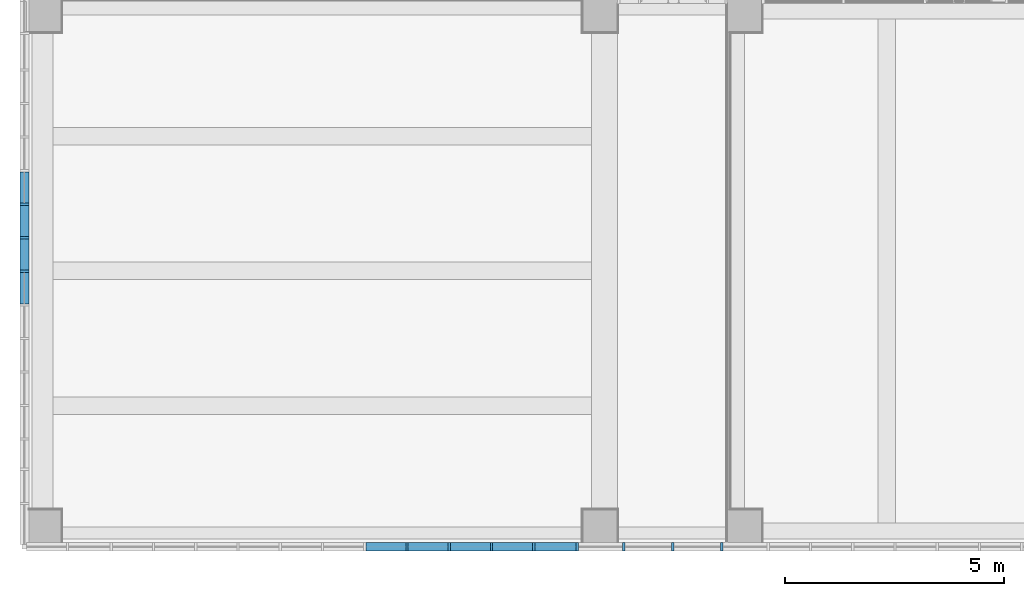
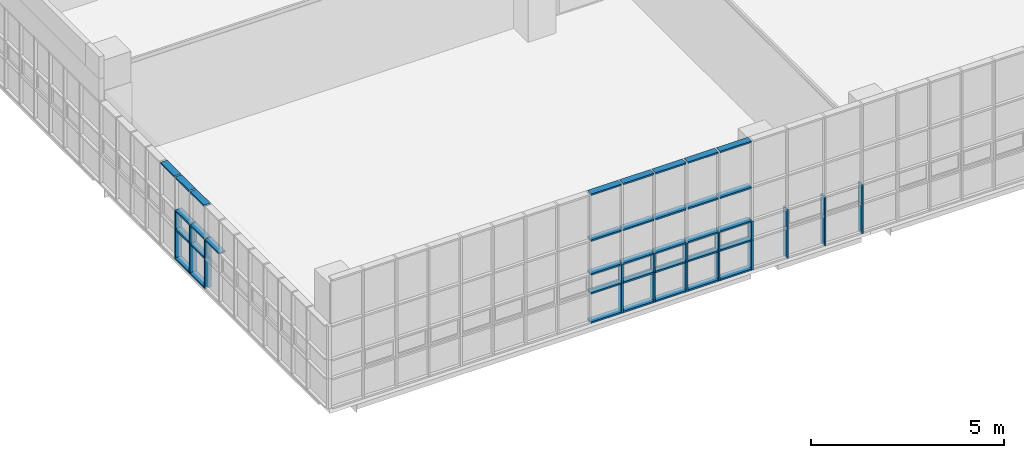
# One storey, part 13 of 76: 57 members, 2 elements without a shape of their own.
"""IFC2X3 building model written with IfcOpenShell, lengths in millimetres."""

from ifc_helpers import new_model, entity, si_unit, converted_unit, derived_unit, direction, frame, origin, origin_2d_with_axis, place, context, subcontext, project, spatial, rectangle, extrude, source, transform, mapped, material, type_object, type_shapes, element, aggregate, save


model = new_model("IFC2X3")

# Units and contexts
model_context = context("Model", 3, precision=0.01, world=origin(), true_north=direction((6.123031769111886e-17, 1.0)))
body_context = subcontext(model_context, "Body", "Model", "MODEL_VIEW")
ifc_project = project(units=[si_unit("LENGTHUNIT", "METRE", prefix="MILLI"), si_unit("AREAUNIT", "SQUARE_METRE"), si_unit("VOLUMEUNIT", "CUBIC_METRE"), converted_unit("PLANEANGLEUNIT", "DEGREE", entity("IfcRatioMeasure", 0.017453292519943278), si_unit("PLANEANGLEUNIT", "RADIAN"), dimensions=[0, 0, 0, 0, 0, 0, 0]), si_unit("MASSUNIT", "GRAM", prefix="KILO"), derived_unit("MASSDENSITYUNIT", [(si_unit("MASSUNIT", "GRAM", prefix="KILO"), 1), (si_unit("LENGTHUNIT", "METRE"), -3)]), derived_unit("MOMENTOFINERTIAUNIT", [(si_unit("LENGTHUNIT", "METRE"), 4)]), si_unit("TIMEUNIT", "SECOND"), si_unit("FREQUENCYUNIT", "HERTZ"), si_unit("THERMODYNAMICTEMPERATUREUNIT", "DEGREE_CELSIUS"), derived_unit("THERMALTRANSMITTANCEUNIT", [(si_unit("MASSUNIT", "GRAM", prefix="KILO"), 1), (si_unit("THERMODYNAMICTEMPERATUREUNIT", "KELVIN"), -1), (si_unit("TIMEUNIT", "SECOND"), -3)]), derived_unit("VOLUMETRICFLOWRATEUNIT", [(si_unit("LENGTHUNIT", "METRE"), 3), (si_unit("TIMEUNIT", "SECOND"), -1)]), derived_unit("MASSFLOWRATEUNIT", [(si_unit("MASSUNIT", "GRAM", prefix="KILO"), 1), (si_unit("TIMEUNIT", "SECOND"), -1)]), derived_unit("ROTATIONALFREQUENCYUNIT", [(si_unit("TIMEUNIT", "SECOND"), -1)]), si_unit("ELECTRICCURRENTUNIT", "AMPERE"), si_unit("ELECTRICVOLTAGEUNIT", "VOLT"), si_unit("POWERUNIT", "WATT"), si_unit("FORCEUNIT", "NEWTON", prefix="KILO"), si_unit("ILLUMINANCEUNIT", "LUX"), si_unit("LUMINOUSFLUXUNIT", "LUMEN"), si_unit("LUMINOUSINTENSITYUNIT", "CANDELA"), derived_unit("USERDEFINED", [(si_unit("MASSUNIT", "GRAM", prefix="KILO"), -1), (si_unit("LENGTHUNIT", "METRE"), -2), (si_unit("TIMEUNIT", "SECOND"), 3), (si_unit("LUMINOUSFLUXUNIT", "LUMEN"), 1)]), derived_unit("SOUNDPOWERUNIT", [(si_unit("MASSUNIT", "GRAM", prefix="KILO"), 1), (si_unit("LENGTHUNIT", "METRE"), 2), (si_unit("TIMEUNIT", "SECOND"), -3)]), derived_unit("SOUNDPRESSUREUNIT", [(si_unit("MASSUNIT", "GRAM", prefix="KILO"), 1), (si_unit("LENGTHUNIT", "METRE"), -1), (si_unit("TIMEUNIT", "SECOND"), -2)]), derived_unit("LINEARVELOCITYUNIT", [(si_unit("LENGTHUNIT", "METRE"), 1), (si_unit("TIMEUNIT", "SECOND"), -1)]), si_unit("PRESSUREUNIT", "PASCAL"), derived_unit("USERDEFINED", [(si_unit("LENGTHUNIT", "METRE"), -2), (si_unit("MASSUNIT", "GRAM", prefix="KILO"), 1), (si_unit("TIMEUNIT", "SECOND"), -2)]), derived_unit("LINEARFORCEUNIT", [(si_unit("MASSUNIT", "GRAM", prefix="KILO"), 1), (si_unit("LENGTHUNIT", "METRE"), 1), (si_unit("TIMEUNIT", "SECOND"), -2), (si_unit("LENGTHUNIT", "METRE"), -1)]), derived_unit("PLANARFORCEUNIT", [(si_unit("MASSUNIT", "GRAM", prefix="KILO"), 1), (si_unit("LENGTHUNIT", "METRE"), 1), (si_unit("TIMEUNIT", "SECOND"), -2), (si_unit("LENGTHUNIT", "METRE"), -2)])], contexts=[model_context])

# Site, building, storey
site_placement = place(None, frame((-14167.972527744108, -657.2125860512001, 0.0)))
site = spatial("IfcSite", under=ifc_project, at=site_placement, Name="Default", CompositionType="ELEMENT")
building_placement = place(site_placement, origin())
building = spatial("IfcBuilding", under=site, at=building_placement, Name="Sample Building", CompositionType="ELEMENT")
storey_placement = place(building_placement, frame((0.0, 0.0, 9300.0)))
storey = spatial("IfcBuildingStorey", under=building, at=storey_placement, Name="지상 3층", CompositionType="ELEMENT", Elevation=9300.000000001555)

# Curtain wall, members
curtain_wall_type = type_object("IfcCurtainWallType", Name="커튼월:CW112-스테인리스 스틸 커튼월", PredefinedType="NOTDEFINED")
curtain_wall_1_placement = place(storey_placement, frame((0.0, 0.0, -9300.0)))
curtain_wall_1 = element("IfcCurtainWall", 1, at=curtain_wall_1_placement, inside=storey, type_object=curtain_wall_type, Name="커튼월:CW112-스테인리스 스틸 커튼월", ObjectType="커튼월:CW112-스테인리스 스틸 커튼월")
ifc_material = material(Name="<Unnamed>")
member_type_1 = type_object("IfcMemberType", Name="직사각형 멀리언:CW200-직사각형 멀리언 50x200mm", PredefinedType="MULLION", material=ifc_material)
shared_shape_1 = source(origin(), body_context, "Body", "SweptSolid", [
    extrude(rectangle(XDim=200.0, YDim=50.0, at=origin_2d_with_axis()), frame((0.0, 0.0, -600.0), z_axis=(0.0, 0.0, 1.0), x_axis=(0.0, -1.0, 0.0)), (0.0, 0.0, 1.0), 600.0),
])
type_shapes(member_type_1, [shared_shape_1])
member_1_placement = place(curtain_wall_1_placement, frame((14018.587904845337, 6799.817707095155, 10330.0), z_axis=(0.0, 0.0, -1.0), x_axis=(0.0, -1.0, 0.0)))
member_1 = element("IfcMember", 2, at=member_1_placement, type_object=member_type_1, material=ifc_material, Name="직사각형 멀리언:CW200-직사각형 멀리언 50x200mm", ObjectType="직사각형 멀리언:CW200-직사각형 멀리언 50x200mm", context=body_context, shape_type="MappedRepresentation", body=[
    mapped(shared_shape_1, transform((0.0, 0.0, 0.0), scale=1.0)),
])
member_2_placement = place(curtain_wall_1_placement, frame((14018.587904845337, 7565.817707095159, 10330.0), z_axis=(0.0, 0.0, -1.0), x_axis=(0.0, -1.0, 0.0)))
member_2 = element("IfcMember", 3, at=member_2_placement, type_object=member_type_1, material=ifc_material, Name="직사각형 멀리언:CW200-직사각형 멀리언 50x200mm", ObjectType="직사각형 멀리언:CW200-직사각형 멀리언 50x200mm", context=body_context, shape_type="MappedRepresentation", body=[
    mapped(shared_shape_1, transform((0.0, 0.0, 0.0), scale=1.0)),
])
member_3_placement = place(curtain_wall_1_placement, frame((14018.587904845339, 8331.817707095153, 10330.0), z_axis=(0.0, 0.0, -1.0), x_axis=(0.0, -1.0, 0.0)))
member_3 = element("IfcMember", 4, at=member_3_placement, type_object=member_type_1, material=ifc_material, Name="직사각형 멀리언:CW200-직사각형 멀리언 50x200mm", ObjectType="직사각형 멀리언:CW200-직사각형 멀리언 50x200mm", context=body_context, shape_type="MappedRepresentation", body=[
    mapped(shared_shape_1, transform((0.0, 0.0, 0.0), scale=1.0)),
])

curtain_wall_2_placement = place(storey_placement, frame((0.0, 0.0, -9300.0)))
curtain_wall_2 = element("IfcCurtainWall", 5, at=curtain_wall_2_placement, inside=storey, type_object=curtain_wall_type, Name="커튼월:CW112-스테인리스 스틸 커튼월", ObjectType="커튼월:CW112-스테인리스 스틸 커튼월")
member_4_placement = place(curtain_wall_2_placement, frame((22755.156070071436, 507.2122951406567, 10330.0), z_axis=(0.0, 0.0, -1.0), x_axis=(1.0, 0.0, 0.0)))
member_4 = element("IfcMember", 6, at=member_4_placement, type_object=member_type_1, material=ifc_material, Name="직사각형 멀리언:CW200-직사각형 멀리언 50x200mm", ObjectType="직사각형 멀리언:CW200-직사각형 멀리언 50x200mm", context=body_context, shape_type="MappedRepresentation", body=[
    mapped(shared_shape_1, transform((0.0, 0.0, 0.0), scale=1.0)),
])
member_5_placement = place(curtain_wall_2_placement, frame((23720.156070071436, 507.21229514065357, 10330.0), z_axis=(0.0, 0.0, -1.0), x_axis=(1.0, 0.0, 0.0)))
member_5 = element("IfcMember", 7, at=member_5_placement, type_object=member_type_1, material=ifc_material, Name="직사각형 멀리언:CW200-직사각형 멀리언 50x200mm", ObjectType="직사각형 멀리언:CW200-직사각형 멀리언 50x200mm", context=body_context, shape_type="MappedRepresentation", body=[
    mapped(shared_shape_1, transform((0.0, 0.0, 0.0), scale=1.0)),
])
member_6_placement = place(curtain_wall_2_placement, frame((24685.15607007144, 507.2122951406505, 10330.0), z_axis=(0.0, 0.0, -1.0), x_axis=(1.0, 0.0, 0.0)))
member_6 = element("IfcMember", 8, at=member_6_placement, type_object=member_type_1, material=ifc_material, Name="직사각형 멀리언:CW200-직사각형 멀리언 50x200mm", ObjectType="직사각형 멀리언:CW200-직사각형 멀리언 50x200mm", context=body_context, shape_type="MappedRepresentation", body=[
    mapped(shared_shape_1, transform((0.0, 0.0, 0.0), scale=1.0)),
])
member_7_placement = place(curtain_wall_2_placement, frame((25650.156070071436, 507.21229514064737, 10330.0), z_axis=(0.0, 0.0, -1.0), x_axis=(1.0, 0.0, 0.0)))
member_7 = element("IfcMember", 9, at=member_7_placement, type_object=member_type_1, material=ifc_material, Name="직사각형 멀리언:CW200-직사각형 멀리언 50x200mm", ObjectType="직사각형 멀리언:CW200-직사각형 멀리언 50x200mm", context=body_context, shape_type="MappedRepresentation", body=[
    mapped(shared_shape_1, transform((0.0, 0.0, 0.0), scale=1.0)),
])
member_8_placement = place(curtain_wall_2_placement, frame((26645.156070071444, 507.2122951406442, 10330.0), z_axis=(0.0, 0.0, -1.0), x_axis=(1.0, 0.0, 0.0)))
member_8 = element("IfcMember", 10, at=member_8_placement, type_object=member_type_1, material=ifc_material, Name="직사각형 멀리언:CW200-직사각형 멀리언 50x200mm", ObjectType="직사각형 멀리언:CW200-직사각형 멀리언 50x200mm", context=body_context, shape_type="MappedRepresentation", body=[
    mapped(shared_shape_1, transform((0.0, 0.0, 0.0), scale=1.0)),
])
member_9_placement = place(curtain_wall_2_placement, frame((27705.15607007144, 507.2122951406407, 10330.0), z_axis=(0.0, 0.0, -1.0), x_axis=(1.0, 0.0, 0.0)))
member_9 = element("IfcMember", 11, at=member_9_placement, type_object=member_type_1, material=ifc_material, Name="직사각형 멀리언:CW200-직사각형 멀리언 50x200mm", ObjectType="직사각형 멀리언:CW200-직사각형 멀리언 50x200mm", context=body_context, shape_type="MappedRepresentation", body=[
    mapped(shared_shape_1, transform((0.0, 0.0, 0.0), scale=1.0)),
])
member_10_placement = place(curtain_wall_2_placement, frame((28825.156070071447, 507.21229514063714, 10330.0), z_axis=(0.0, 0.0, -1.0), x_axis=(1.0, 0.0, 0.0)))
member_10 = element("IfcMember", 12, at=member_10_placement, type_object=member_type_1, material=ifc_material, Name="직사각형 멀리언:CW200-직사각형 멀리언 50x200mm", ObjectType="직사각형 멀리언:CW200-직사각형 멀리언 50x200mm", context=body_context, shape_type="MappedRepresentation", body=[
    mapped(shared_shape_1, transform((0.0, 0.0, 0.0), scale=1.0)),
])
member_11_placement = place(curtain_wall_2_placement, frame((29945.15607007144, 507.2122951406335, 10330.0), z_axis=(0.0, 0.0, -1.0), x_axis=(1.0, 0.0, 0.0)))
member_11 = element("IfcMember", 13, at=member_11_placement, type_object=member_type_1, material=ifc_material, Name="직사각형 멀리언:CW200-직사각형 멀리언 50x200mm", ObjectType="직사각형 멀리언:CW200-직사각형 멀리언 50x200mm", context=body_context, shape_type="MappedRepresentation", body=[
    mapped(shared_shape_1, transform((0.0, 0.0, 0.0), scale=1.0)),
])

# Member
member_type_2 = type_object("IfcMemberType", Name="직사각형 멀리언:CW200-직사각형 멀리언 50x200mm", PredefinedType="MULLION", material=ifc_material)
shared_shape_2 = source(origin(), body_context, "Body", "SweptSolid", [
    extrude(rectangle(XDim=200.0, YDim=50.0, at=origin_2d_with_axis()), frame((0.0, 0.0, -950.0), z_axis=(0.0, 0.0, 1.0), x_axis=(0.0, -1.0, 0.0)), (0.0, 0.0, 1.0), 949.9999999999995),
])
type_shapes(member_type_2, [shared_shape_2])
member_12_placement = place(curtain_wall_1_placement, frame((14018.587904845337, 6799.817707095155, 9380.0), z_axis=(0.0, 0.0, -1.0), x_axis=(0.0, -1.0, 0.0)))
member_12 = element("IfcMember", 14, at=member_12_placement, type_object=member_type_2, material=ifc_material, Name="직사각형 멀리언:CW200-직사각형 멀리언 50x200mm", ObjectType="직사각형 멀리언:CW200-직사각형 멀리언 50x200mm", context=body_context, shape_type="MappedRepresentation", body=[
    mapped(shared_shape_2, transform((0.0, 0.0, 0.0), scale=1.0)),
])

member_13_placement = place(curtain_wall_1_placement, frame((14018.587904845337, 7565.817707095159, 9380.0), z_axis=(0.0, 0.0, -1.0), x_axis=(0.0, -1.0, 0.0)))
member_13 = element("IfcMember", 15, at=member_13_placement, type_object=member_type_2, material=ifc_material, Name="직사각형 멀리언:CW200-직사각형 멀리언 50x200mm", ObjectType="직사각형 멀리언:CW200-직사각형 멀리언 50x200mm", context=body_context, shape_type="MappedRepresentation", body=[
    mapped(shared_shape_2, transform((0.0, 0.0, 0.0), scale=1.0)),
])

member_14_placement = place(curtain_wall_1_placement, frame((14018.587904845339, 8331.817707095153, 9380.0), z_axis=(0.0, 0.0, -1.0), x_axis=(0.0, -1.0, 0.0)))
member_14 = element("IfcMember", 16, at=member_14_placement, type_object=member_type_2, material=ifc_material, Name="직사각형 멀리언:CW200-직사각형 멀리언 50x200mm", ObjectType="직사각형 멀리언:CW200-직사각형 멀리언 50x200mm", context=body_context, shape_type="MappedRepresentation", body=[
    mapped(shared_shape_2, transform((0.0, 0.0, 0.0), scale=1.0)),
])

member_15_placement = place(curtain_wall_2_placement, frame((22755.156070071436, 507.2122951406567, 9380.0), z_axis=(0.0, 0.0, -1.0), x_axis=(1.0, 0.0, 0.0)))
member_15 = element("IfcMember", 17, at=member_15_placement, type_object=member_type_2, material=ifc_material, Name="직사각형 멀리언:CW200-직사각형 멀리언 50x200mm", ObjectType="직사각형 멀리언:CW200-직사각형 멀리언 50x200mm", context=body_context, shape_type="MappedRepresentation", body=[
    mapped(shared_shape_2, transform((0.0, 0.0, 0.0), scale=1.0)),
])

member_16_placement = place(curtain_wall_2_placement, frame((23720.156070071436, 507.21229514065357, 9380.0), z_axis=(0.0, 0.0, -1.0), x_axis=(1.0, 0.0, 0.0)))
member_16 = element("IfcMember", 18, at=member_16_placement, type_object=member_type_2, material=ifc_material, Name="직사각형 멀리언:CW200-직사각형 멀리언 50x200mm", ObjectType="직사각형 멀리언:CW200-직사각형 멀리언 50x200mm", context=body_context, shape_type="MappedRepresentation", body=[
    mapped(shared_shape_2, transform((0.0, 0.0, 0.0), scale=1.0)),
])

member_17_placement = place(curtain_wall_2_placement, frame((24685.15607007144, 507.2122951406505, 9380.0), z_axis=(0.0, 0.0, -1.0), x_axis=(1.0, 0.0, 0.0)))
member_17 = element("IfcMember", 19, at=member_17_placement, type_object=member_type_2, material=ifc_material, Name="직사각형 멀리언:CW200-직사각형 멀리언 50x200mm", ObjectType="직사각형 멀리언:CW200-직사각형 멀리언 50x200mm", context=body_context, shape_type="MappedRepresentation", body=[
    mapped(shared_shape_2, transform((0.0, 0.0, 0.0), scale=1.0)),
])

member_18_placement = place(curtain_wall_2_placement, frame((25650.156070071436, 507.21229514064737, 9380.0), z_axis=(0.0, 0.0, -1.0), x_axis=(1.0, 0.0, 0.0)))
member_18 = element("IfcMember", 20, at=member_18_placement, type_object=member_type_2, material=ifc_material, Name="직사각형 멀리언:CW200-직사각형 멀리언 50x200mm", ObjectType="직사각형 멀리언:CW200-직사각형 멀리언 50x200mm", context=body_context, shape_type="MappedRepresentation", body=[
    mapped(shared_shape_2, transform((0.0, 0.0, 0.0), scale=1.0)),
])

member_19_placement = place(curtain_wall_2_placement, frame((26645.156070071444, 507.2122951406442, 9380.0), z_axis=(0.0, 0.0, -1.0), x_axis=(1.0, 0.0, 0.0)))
member_19 = element("IfcMember", 21, at=member_19_placement, type_object=member_type_2, material=ifc_material, Name="직사각형 멀리언:CW200-직사각형 멀리언 50x200mm", ObjectType="직사각형 멀리언:CW200-직사각형 멀리언 50x200mm", context=body_context, shape_type="MappedRepresentation", body=[
    mapped(shared_shape_2, transform((0.0, 0.0, 0.0), scale=1.0)),
])

member_20_placement = place(curtain_wall_2_placement, frame((27705.156070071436, 507.2122951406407, 9380.0), z_axis=(0.0, 0.0, -1.0), x_axis=(1.0, 0.0, 0.0)))
member_20 = element("IfcMember", 22, at=member_20_placement, type_object=member_type_2, material=ifc_material, Name="직사각형 멀리언:CW200-직사각형 멀리언 50x200mm", ObjectType="직사각형 멀리언:CW200-직사각형 멀리언 50x200mm", context=body_context, shape_type="MappedRepresentation", body=[
    mapped(shared_shape_2, transform((0.0, 0.0, 0.0), scale=1.0)),
])

member_21_placement = place(curtain_wall_2_placement, frame((28825.156070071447, 507.21229514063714, 9380.0), z_axis=(0.0, 0.0, -1.0), x_axis=(1.0, 0.0, 0.0)))
member_21 = element("IfcMember", 23, at=member_21_placement, type_object=member_type_2, material=ifc_material, Name="직사각형 멀리언:CW200-직사각형 멀리언 50x200mm", ObjectType="직사각형 멀리언:CW200-직사각형 멀리언 50x200mm", context=body_context, shape_type="MappedRepresentation", body=[
    mapped(shared_shape_2, transform((0.0, 0.0, 0.0), scale=1.0)),
])

member_22_placement = place(curtain_wall_2_placement, frame((29945.15607007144, 507.2122951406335, 9380.0), z_axis=(0.0, 0.0, -1.0), x_axis=(1.0, 0.0, 0.0)))
member_22 = element("IfcMember", 24, at=member_22_placement, type_object=member_type_2, material=ifc_material, Name="직사각형 멀리언:CW200-직사각형 멀리언 50x200mm", ObjectType="직사각형 멀리언:CW200-직사각형 멀리언 50x200mm", context=body_context, shape_type="MappedRepresentation", body=[
    mapped(shared_shape_2, transform((0.0, 0.0, 0.0), scale=1.0)),
])

member_type_3 = type_object("IfcMemberType", Name="직사각형 멀리언:CW200-직사각형 멀리언 50x200mm", PredefinedType="MULLION", material=ifc_material)
shared_shape_3 = source(origin(), body_context, "Body", "SweptSolid", [
    extrude(rectangle(XDim=200.0, YDim=50.0, at=origin_2d_with_axis()), frame((-25.0, 0.0, -716.0), z_axis=(0.0, 0.0, 1.0), x_axis=(0.0, -1.0, 0.0)), (0.0, 0.0, 1.0), 715.9999999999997),
])
type_shapes(member_type_3, [shared_shape_3])
member_23_placement = place(curtain_wall_1_placement, frame((14018.587904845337, 7540.817707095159, 9380.0), z_axis=(0.0, 1.0, 0.0), x_axis=(0.0, 0.0, -1.0)))
member_23 = element("IfcMember", 25, at=member_23_placement, type_object=member_type_3, material=ifc_material, Name="직사각형 멀리언:CW200-직사각형 멀리언 50x200mm", ObjectType="직사각형 멀리언:CW200-직사각형 멀리언 50x200mm", context=body_context, shape_type="MappedRepresentation", body=[
    mapped(shared_shape_3, transform((0.0, 0.0, 0.0), scale=1.0)),
])

member_24_placement = place(curtain_wall_1_placement, frame((14018.587904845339, 8306.817707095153, 9380.0), z_axis=(0.0, 1.0, 0.0), x_axis=(0.0, 0.0, -1.0)))
member_24 = element("IfcMember", 26, at=member_24_placement, type_object=member_type_3, material=ifc_material, Name="직사각형 멀리언:CW200-직사각형 멀리언 50x200mm", ObjectType="직사각형 멀리언:CW200-직사각형 멀리언 50x200mm", context=body_context, shape_type="MappedRepresentation", body=[
    mapped(shared_shape_3, transform((0.0, 0.0, 0.0), scale=1.0)),
])

member_type_4 = type_object("IfcMemberType", Name="직사각형 멀리언:CW200-직사각형 멀리언 50x200mm", PredefinedType="MULLION", material=ifc_material)
shared_shape_4 = source(origin(), body_context, "Body", "SweptSolid", [
    extrude(rectangle(XDim=200.0, YDim=50.0, at=origin_2d_with_axis()), frame((0.0, 0.0, -716.0), z_axis=(0.0, 0.0, 1.0), x_axis=(0.0, -1.0, 0.0)), (0.0, 0.0, 1.0), 715.9999999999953),
])
type_shapes(member_type_4, [shared_shape_4])
member_25_placement = place(curtain_wall_1_placement, frame((14018.587904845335, 6058.817707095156, 10930.0), z_axis=(0.0, -1.0, 0.0), x_axis=(0.0, 0.0, 1.0)))
member_25 = element("IfcMember", 27, at=member_25_placement, type_object=member_type_4, material=ifc_material, Name="직사각형 멀리언:CW200-직사각형 멀리언 50x200mm", ObjectType="직사각형 멀리언:CW200-직사각형 멀리언 50x200mm", context=body_context, shape_type="MappedRepresentation", body=[
    mapped(shared_shape_4, transform((0.0, 0.0, 0.0), scale=1.0)),
])

member_26_placement = place(curtain_wall_1_placement, frame((14018.587904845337, 6824.817707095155, 10330.0), z_axis=(0.0, -1.0, 0.0), x_axis=(0.0, 0.0, 1.0)))
member_26 = element("IfcMember", 28, at=member_26_placement, type_object=member_type_4, material=ifc_material, Name="직사각형 멀리언:CW200-직사각형 멀리언 50x200mm", ObjectType="직사각형 멀리언:CW200-직사각형 멀리언 50x200mm", context=body_context, shape_type="MappedRepresentation", body=[
    mapped(shared_shape_4, transform((0.0, 0.0, 0.0), scale=1.0)),
])

member_27_placement = place(curtain_wall_1_placement, frame((14018.587904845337, 6824.817707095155, 10930.0), z_axis=(0.0, -1.0, 0.0), x_axis=(0.0, 0.0, 1.0)))
member_27 = element("IfcMember", 29, at=member_27_placement, type_object=member_type_4, material=ifc_material, Name="직사각형 멀리언:CW200-직사각형 멀리언 50x200mm", ObjectType="직사각형 멀리언:CW200-직사각형 멀리언 50x200mm", context=body_context, shape_type="MappedRepresentation", body=[
    mapped(shared_shape_4, transform((0.0, 0.0, 0.0), scale=1.0)),
])

member_28_placement = place(curtain_wall_1_placement, frame((14018.587904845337, 7590.817707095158, 10330.0), z_axis=(0.0, -1.0, 0.0), x_axis=(0.0, 0.0, 1.0)))
member_28 = element("IfcMember", 30, at=member_28_placement, type_object=member_type_4, material=ifc_material, Name="직사각형 멀리언:CW200-직사각형 멀리언 50x200mm", ObjectType="직사각형 멀리언:CW200-직사각형 멀리언 50x200mm", context=body_context, shape_type="MappedRepresentation", body=[
    mapped(shared_shape_4, transform((0.0, 0.0, 0.0), scale=1.0)),
])

member_29_placement = place(curtain_wall_1_placement, frame((14018.587904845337, 7590.817707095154, 10930.0), z_axis=(0.0, -1.0, 0.0), x_axis=(0.0, 0.0, 1.0)))
member_29 = element("IfcMember", 31, at=member_29_placement, type_object=member_type_4, material=ifc_material, Name="직사각형 멀리언:CW200-직사각형 멀리언 50x200mm", ObjectType="직사각형 멀리언:CW200-직사각형 멀리언 50x200mm", context=body_context, shape_type="MappedRepresentation", body=[
    mapped(shared_shape_4, transform((0.0, 0.0, 0.0), scale=1.0)),
])

member_type_5 = type_object("IfcMemberType", Name="직사각형 멀리언:CW200-직사각형 멀리언 50x200mm", PredefinedType="MULLION", material=ifc_material)
shared_shape_5 = source(origin(), body_context, "Body", "SweptSolid", [
    extrude(rectangle(XDim=200.0, YDim=50.0, at=origin_2d_with_axis()), frame((-25.0, 0.0, -716.0), z_axis=(0.0, 0.0, 1.0), x_axis=(0.0, -1.0, 0.0)), (0.0, 0.0, 1.0), 715.9999999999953),
])
type_shapes(member_type_5, [shared_shape_5])
member_30_placement = place(curtain_wall_1_placement, frame((14018.587904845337, 6824.817707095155, 12000.0), z_axis=(0.0, -1.0, 0.0), x_axis=(0.0, 0.0, 1.0)))
member_30 = element("IfcMember", 32, at=member_30_placement, type_object=member_type_5, material=ifc_material, Name="직사각형 멀리언:CW200-직사각형 멀리언 50x200mm", ObjectType="직사각형 멀리언:CW200-직사각형 멀리언 50x200mm", context=body_context, shape_type="MappedRepresentation", body=[
    mapped(shared_shape_5, transform((0.0, 0.0, 0.0), scale=1.0)),
])

member_31_placement = place(curtain_wall_1_placement, frame((14018.587904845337, 7590.817707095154, 12000.0), z_axis=(0.0, -1.0, 0.0), x_axis=(0.0, 0.0, 1.0)))
member_31 = element("IfcMember", 33, at=member_31_placement, type_object=member_type_5, material=ifc_material, Name="직사각형 멀리언:CW200-직사각형 멀리언 50x200mm", ObjectType="직사각형 멀리언:CW200-직사각형 멀리언 50x200mm", context=body_context, shape_type="MappedRepresentation", body=[
    mapped(shared_shape_5, transform((0.0, 0.0, 0.0), scale=1.0)),
])

member_32_placement = place(curtain_wall_1_placement, frame((14018.587904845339, 8356.817707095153, 12000.0), z_axis=(0.0, -1.0, 0.0), x_axis=(0.0, 0.0, 1.0)))
member_32 = element("IfcMember", 34, at=member_32_placement, type_object=member_type_5, material=ifc_material, Name="직사각형 멀리언:CW200-직사각형 멀리언 50x200mm", ObjectType="직사각형 멀리언:CW200-직사각형 멀리언 50x200mm", context=body_context, shape_type="MappedRepresentation", body=[
    mapped(shared_shape_5, transform((0.0, 0.0, 0.0), scale=1.0)),
])

aggregate(curtain_wall_1, [member_25, member_30, member_12, member_1, member_23, member_26, member_27, member_31, member_13, member_2, member_14, member_3, member_24, member_28, member_29, member_32])

member_type_6 = type_object("IfcMemberType", Name="직사각형 멀리언:CW200-직사각형 멀리언 50x200mm", PredefinedType="MULLION", material=ifc_material)
shared_shape_6 = source(origin(), body_context, "Body", "SweptSolid", [
    extrude(rectangle(XDim=200.0, YDim=50.0, at=origin_2d_with_axis()), frame((-25.0, 0.0, -945.0), z_axis=(0.0, 0.0, 1.0), x_axis=(0.0, -1.0, 0.0)), (0.0, 0.0, 1.0), 944.9999999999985),
])
type_shapes(member_type_6, [shared_shape_6])
member_33_placement = place(curtain_wall_2_placement, frame((25675.156070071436, 507.2122951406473, 9380.0), z_axis=(-1.0, 0.0, 0.0), x_axis=(0.0, 0.0, -1.0)))
member_33 = element("IfcMember", 35, at=member_33_placement, type_object=member_type_6, material=ifc_material, Name="직사각형 멀리언:CW200-직사각형 멀리언 50x200mm", ObjectType="직사각형 멀리언:CW200-직사각형 멀리언 50x200mm", context=body_context, shape_type="MappedRepresentation", body=[
    mapped(shared_shape_6, transform((0.0, 0.0, 0.0), scale=1.0)),
])

member_type_7 = type_object("IfcMemberType", Name="직사각형 멀리언:CW200-직사각형 멀리언 50x200mm", PredefinedType="MULLION", material=ifc_material)
shared_shape_7 = source(origin(), body_context, "Body", "SweptSolid", [
    extrude(rectangle(XDim=200.0, YDim=50.0, at=origin_2d_with_axis()), frame((0.0, 0.0, -945.0), z_axis=(0.0, 0.0, 1.0), x_axis=(0.0, -1.0, 0.0)), (0.0, 0.0, 1.0), 944.9999999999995),
])
type_shapes(member_type_7, [shared_shape_7])
member_34_placement = place(curtain_wall_2_placement, frame((26620.156070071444, 507.21229514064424, 10330.0), z_axis=(1.0, 0.0, 0.0), x_axis=(0.0, 0.0, 1.0)))
member_34 = element("IfcMember", 36, at=member_34_placement, type_object=member_type_7, material=ifc_material, Name="직사각형 멀리언:CW200-직사각형 멀리언 50x200mm", ObjectType="직사각형 멀리언:CW200-직사각형 멀리언 50x200mm", context=body_context, shape_type="MappedRepresentation", body=[
    mapped(shared_shape_7, transform((0.0, 0.0, 0.0), scale=1.0)),
])

member_35_placement = place(curtain_wall_2_placement, frame((26620.156070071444, 507.21229514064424, 10930.0), z_axis=(1.0, 0.0, 0.0), x_axis=(0.0, 0.0, 1.0)))
member_35 = element("IfcMember", 37, at=member_35_placement, type_object=member_type_7, material=ifc_material, Name="직사각형 멀리언:CW200-직사각형 멀리언 50x200mm", ObjectType="직사각형 멀리언:CW200-직사각형 멀리언 50x200mm", context=body_context, shape_type="MappedRepresentation", body=[
    mapped(shared_shape_7, transform((0.0, 0.0, 0.0), scale=1.0)),
])

member_36_placement = place(curtain_wall_2_placement, frame((26620.156070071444, 507.21229514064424, 12000.0), z_axis=(1.0, 0.0, 0.0), x_axis=(0.0, 0.0, 1.0)))
member_36 = element("IfcMember", 38, at=member_36_placement, type_object=member_type_7, material=ifc_material, Name="직사각형 멀리언:CW200-직사각형 멀리언 50x200mm", ObjectType="직사각형 멀리언:CW200-직사각형 멀리언 50x200mm", context=body_context, shape_type="MappedRepresentation", body=[
    mapped(shared_shape_7, transform((0.0, 0.0, 0.0), scale=1.0)),
])

member_type_8 = type_object("IfcMemberType", Name="직사각형 멀리언:CW200-직사각형 멀리언 50x200mm", PredefinedType="MULLION", material=ifc_material)
shared_shape_8 = source(origin(), body_context, "Body", "SweptSolid", [
    extrude(rectangle(XDim=200.0, YDim=50.0, at=origin_2d_with_axis()), frame((-25.0, 0.0, -945.0), z_axis=(0.0, 0.0, 1.0), x_axis=(0.0, -1.0, 0.0)), (0.0, 0.0, 1.0), 945.000000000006),
])
type_shapes(member_type_8, [shared_shape_8])
member_37_placement = place(curtain_wall_2_placement, frame((26620.156070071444, 507.21229514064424, 13480.0), z_axis=(1.0, 0.0, 0.0), x_axis=(0.0, 0.0, 1.0)))
member_37 = element("IfcMember", 39, at=member_37_placement, type_object=member_type_8, material=ifc_material, Name="직사각형 멀리언:CW200-직사각형 멀리언 50x200mm", ObjectType="직사각형 멀리언:CW200-직사각형 멀리언 50x200mm", context=body_context, shape_type="MappedRepresentation", body=[
    mapped(shared_shape_8, transform((0.0, 0.0, 0.0), scale=1.0)),
])

member_type_9 = type_object("IfcMemberType", Name="직사각형 멀리언:CW200-직사각형 멀리언 50x200mm", PredefinedType="MULLION", material=ifc_material)
shared_shape_9 = source(origin(), body_context, "Body", "SweptSolid", [
    extrude(rectangle(XDim=200.0, YDim=50.0, at=origin_2d_with_axis()), frame((-25.0, 0.0, -915.0), z_axis=(0.0, 0.0, 1.0), x_axis=(0.0, -1.0, 0.0)), (0.0, 0.0, 1.0), 914.9999999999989),
])
type_shapes(member_type_9, [shared_shape_9])
member_38_placement = place(curtain_wall_2_placement, frame((21815.156070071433, 507.21229514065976, 9380.0), z_axis=(-1.0, 0.0, 0.0), x_axis=(0.0, 0.0, -1.0)))
member_38 = element("IfcMember", 40, at=member_38_placement, type_object=member_type_9, material=ifc_material, Name="직사각형 멀리언:CW200-직사각형 멀리언 50x200mm", ObjectType="직사각형 멀리언:CW200-직사각형 멀리언 50x200mm", context=body_context, shape_type="MappedRepresentation", body=[
    mapped(shared_shape_9, transform((0.0, 0.0, 0.0), scale=1.0)),
])

member_39_placement = place(curtain_wall_2_placement, frame((22780.156070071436, 507.21229514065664, 9380.0), z_axis=(-1.0, 0.0, 0.0), x_axis=(0.0, 0.0, -1.0)))
member_39 = element("IfcMember", 41, at=member_39_placement, type_object=member_type_9, material=ifc_material, Name="직사각형 멀리언:CW200-직사각형 멀리언 50x200mm", ObjectType="직사각형 멀리언:CW200-직사각형 멀리언 50x200mm", context=body_context, shape_type="MappedRepresentation", body=[
    mapped(shared_shape_9, transform((0.0, 0.0, 0.0), scale=1.0)),
])

member_40_placement = place(curtain_wall_2_placement, frame((23745.156070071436, 507.2122951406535, 9380.0), z_axis=(-1.0, 0.0, 0.0), x_axis=(0.0, 0.0, -1.0)))
member_40 = element("IfcMember", 42, at=member_40_placement, type_object=member_type_9, material=ifc_material, Name="직사각형 멀리언:CW200-직사각형 멀리언 50x200mm", ObjectType="직사각형 멀리언:CW200-직사각형 멀리언 50x200mm", context=body_context, shape_type="MappedRepresentation", body=[
    mapped(shared_shape_9, transform((0.0, 0.0, 0.0), scale=1.0)),
])

member_41_placement = place(curtain_wall_2_placement, frame((24710.156070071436, 507.2122951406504, 9380.0), z_axis=(-1.0, 0.0, 0.0), x_axis=(0.0, 0.0, -1.0)))
member_41 = element("IfcMember", 43, at=member_41_placement, type_object=member_type_9, material=ifc_material, Name="직사각형 멀리언:CW200-직사각형 멀리언 50x200mm", ObjectType="직사각형 멀리언:CW200-직사각형 멀리언 50x200mm", context=body_context, shape_type="MappedRepresentation", body=[
    mapped(shared_shape_9, transform((0.0, 0.0, 0.0), scale=1.0)),
])

member_type_10 = type_object("IfcMemberType", Name="직사각형 멀리언:CW200-직사각형 멀리언 50x200mm", PredefinedType="MULLION", material=ifc_material)
shared_shape_10 = source(origin(), body_context, "Body", "SweptSolid", [
    extrude(rectangle(XDim=200.0, YDim=50.0, at=origin_2d_with_axis()), frame((0.0, 0.0, -915.0), z_axis=(0.0, 0.0, 1.0), x_axis=(0.0, -1.0, 0.0)), (0.0, 0.0, 1.0), 915.000000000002),
])
type_shapes(member_type_10, [shared_shape_10])
member_42_placement = place(curtain_wall_2_placement, frame((22730.156070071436, 507.21229514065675, 10330.0), z_axis=(1.0, 0.0, 0.0), x_axis=(0.0, 0.0, 1.0)))
member_42 = element("IfcMember", 44, at=member_42_placement, type_object=member_type_10, material=ifc_material, Name="직사각형 멀리언:CW200-직사각형 멀리언 50x200mm", ObjectType="직사각형 멀리언:CW200-직사각형 멀리언 50x200mm", context=body_context, shape_type="MappedRepresentation", body=[
    mapped(shared_shape_10, transform((0.0, 0.0, 0.0), scale=1.0)),
])

member_43_placement = place(curtain_wall_2_placement, frame((22730.156070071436, 507.21229514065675, 10930.0), z_axis=(1.0, 0.0, 0.0), x_axis=(0.0, 0.0, 1.0)))
member_43 = element("IfcMember", 45, at=member_43_placement, type_object=member_type_10, material=ifc_material, Name="직사각형 멀리언:CW200-직사각형 멀리언 50x200mm", ObjectType="직사각형 멀리언:CW200-직사각형 멀리언 50x200mm", context=body_context, shape_type="MappedRepresentation", body=[
    mapped(shared_shape_10, transform((0.0, 0.0, 0.0), scale=1.0)),
])

member_44_placement = place(curtain_wall_2_placement, frame((22730.156070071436, 507.21229514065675, 12000.0), z_axis=(1.0, 0.0, 0.0), x_axis=(0.0, 0.0, 1.0)))
member_44 = element("IfcMember", 46, at=member_44_placement, type_object=member_type_10, material=ifc_material, Name="직사각형 멀리언:CW200-직사각형 멀리언 50x200mm", ObjectType="직사각형 멀리언:CW200-직사각형 멀리언 50x200mm", context=body_context, shape_type="MappedRepresentation", body=[
    mapped(shared_shape_10, transform((0.0, 0.0, 0.0), scale=1.0)),
])

member_45_placement = place(curtain_wall_2_placement, frame((23695.15607007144, 507.2122951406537, 10330.0), z_axis=(1.0, 0.0, 0.0), x_axis=(0.0, 0.0, 1.0)))
member_45 = element("IfcMember", 47, at=member_45_placement, type_object=member_type_10, material=ifc_material, Name="직사각형 멀리언:CW200-직사각형 멀리언 50x200mm", ObjectType="직사각형 멀리언:CW200-직사각형 멀리언 50x200mm", context=body_context, shape_type="MappedRepresentation", body=[
    mapped(shared_shape_10, transform((0.0, 0.0, 0.0), scale=1.0)),
])

member_46_placement = place(curtain_wall_2_placement, frame((23695.15607007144, 507.2122951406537, 10930.0), z_axis=(1.0, 0.0, 0.0), x_axis=(0.0, 0.0, 1.0)))
member_46 = element("IfcMember", 48, at=member_46_placement, type_object=member_type_10, material=ifc_material, Name="직사각형 멀리언:CW200-직사각형 멀리언 50x200mm", ObjectType="직사각형 멀리언:CW200-직사각형 멀리언 50x200mm", context=body_context, shape_type="MappedRepresentation", body=[
    mapped(shared_shape_10, transform((0.0, 0.0, 0.0), scale=1.0)),
])

member_47_placement = place(curtain_wall_2_placement, frame((23695.15607007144, 507.2122951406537, 12000.0), z_axis=(1.0, 0.0, 0.0), x_axis=(0.0, 0.0, 1.0)))
member_47 = element("IfcMember", 49, at=member_47_placement, type_object=member_type_10, material=ifc_material, Name="직사각형 멀리언:CW200-직사각형 멀리언 50x200mm", ObjectType="직사각형 멀리언:CW200-직사각형 멀리언 50x200mm", context=body_context, shape_type="MappedRepresentation", body=[
    mapped(shared_shape_10, transform((0.0, 0.0, 0.0), scale=1.0)),
])

member_48_placement = place(curtain_wall_2_placement, frame((24660.15607007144, 507.21229514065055, 10330.0), z_axis=(1.0, 0.0, 0.0), x_axis=(0.0, 0.0, 1.0)))
member_48 = element("IfcMember", 50, at=member_48_placement, type_object=member_type_10, material=ifc_material, Name="직사각형 멀리언:CW200-직사각형 멀리언 50x200mm", ObjectType="직사각형 멀리언:CW200-직사각형 멀리언 50x200mm", context=body_context, shape_type="MappedRepresentation", body=[
    mapped(shared_shape_10, transform((0.0, 0.0, 0.0), scale=1.0)),
])

member_49_placement = place(curtain_wall_2_placement, frame((24660.15607007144, 507.21229514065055, 10930.0), z_axis=(1.0, 0.0, 0.0), x_axis=(0.0, 0.0, 1.0)))
member_49 = element("IfcMember", 51, at=member_49_placement, type_object=member_type_10, material=ifc_material, Name="직사각형 멀리언:CW200-직사각형 멀리언 50x200mm", ObjectType="직사각형 멀리언:CW200-직사각형 멀리언 50x200mm", context=body_context, shape_type="MappedRepresentation", body=[
    mapped(shared_shape_10, transform((0.0, 0.0, 0.0), scale=1.0)),
])

member_50_placement = place(curtain_wall_2_placement, frame((24660.15607007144, 507.21229514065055, 12000.0), z_axis=(1.0, 0.0, 0.0), x_axis=(0.0, 0.0, 1.0)))
member_50 = element("IfcMember", 52, at=member_50_placement, type_object=member_type_10, material=ifc_material, Name="직사각형 멀리언:CW200-직사각형 멀리언 50x200mm", ObjectType="직사각형 멀리언:CW200-직사각형 멀리언 50x200mm", context=body_context, shape_type="MappedRepresentation", body=[
    mapped(shared_shape_10, transform((0.0, 0.0, 0.0), scale=1.0)),
])

member_51_placement = place(curtain_wall_2_placement, frame((25625.156070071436, 507.2122951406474, 10330.0), z_axis=(1.0, 0.0, 0.0), x_axis=(0.0, 0.0, 1.0)))
member_51 = element("IfcMember", 53, at=member_51_placement, type_object=member_type_10, material=ifc_material, Name="직사각형 멀리언:CW200-직사각형 멀리언 50x200mm", ObjectType="직사각형 멀리언:CW200-직사각형 멀리언 50x200mm", context=body_context, shape_type="MappedRepresentation", body=[
    mapped(shared_shape_10, transform((0.0, 0.0, 0.0), scale=1.0)),
])

member_52_placement = place(curtain_wall_2_placement, frame((25625.156070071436, 507.2122951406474, 10930.0), z_axis=(1.0, 0.0, 0.0), x_axis=(0.0, 0.0, 1.0)))
member_52 = element("IfcMember", 54, at=member_52_placement, type_object=member_type_10, material=ifc_material, Name="직사각형 멀리언:CW200-직사각형 멀리언 50x200mm", ObjectType="직사각형 멀리언:CW200-직사각형 멀리언 50x200mm", context=body_context, shape_type="MappedRepresentation", body=[
    mapped(shared_shape_10, transform((0.0, 0.0, 0.0), scale=1.0)),
])

member_53_placement = place(curtain_wall_2_placement, frame((25625.156070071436, 507.2122951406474, 12000.0), z_axis=(1.0, 0.0, 0.0), x_axis=(0.0, 0.0, 1.0)))
member_53 = element("IfcMember", 55, at=member_53_placement, type_object=member_type_10, material=ifc_material, Name="직사각형 멀리언:CW200-직사각형 멀리언 50x200mm", ObjectType="직사각형 멀리언:CW200-직사각형 멀리언 50x200mm", context=body_context, shape_type="MappedRepresentation", body=[
    mapped(shared_shape_10, transform((0.0, 0.0, 0.0), scale=1.0)),
])

member_type_11 = type_object("IfcMemberType", Name="직사각형 멀리언:CW200-직사각형 멀리언 50x200mm", PredefinedType="MULLION", material=ifc_material)
shared_shape_11 = source(origin(), body_context, "Body", "SweptSolid", [
    extrude(rectangle(XDim=200.0, YDim=50.0, at=origin_2d_with_axis()), frame((-25.0, 0.0, -915.0), z_axis=(0.0, 0.0, 1.0), x_axis=(0.0, -1.0, 0.0)), (0.0, 0.0, 1.0), 914.9999999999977),
])
type_shapes(member_type_11, [shared_shape_11])
member_54_placement = place(curtain_wall_2_placement, frame((22730.156070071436, 507.21229514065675, 13480.0), z_axis=(1.0, 0.0, 0.0), x_axis=(0.0, 0.0, 1.0)))
member_54 = element("IfcMember", 56, at=member_54_placement, type_object=member_type_11, material=ifc_material, Name="직사각형 멀리언:CW200-직사각형 멀리언 50x200mm", ObjectType="직사각형 멀리언:CW200-직사각형 멀리언 50x200mm", context=body_context, shape_type="MappedRepresentation", body=[
    mapped(shared_shape_11, transform((0.0, 0.0, 0.0), scale=1.0)),
])

member_55_placement = place(curtain_wall_2_placement, frame((23695.15607007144, 507.2122951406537, 13480.0), z_axis=(1.0, 0.0, 0.0), x_axis=(0.0, 0.0, 1.0)))
member_55 = element("IfcMember", 57, at=member_55_placement, type_object=member_type_11, material=ifc_material, Name="직사각형 멀리언:CW200-직사각형 멀리언 50x200mm", ObjectType="직사각형 멀리언:CW200-직사각형 멀리언 50x200mm", context=body_context, shape_type="MappedRepresentation", body=[
    mapped(shared_shape_11, transform((0.0, 0.0, 0.0), scale=1.0)),
])

member_56_placement = place(curtain_wall_2_placement, frame((24660.15607007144, 507.21229514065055, 13480.0), z_axis=(1.0, 0.0, 0.0), x_axis=(0.0, 0.0, 1.0)))
member_56 = element("IfcMember", 58, at=member_56_placement, type_object=member_type_11, material=ifc_material, Name="직사각형 멀리언:CW200-직사각형 멀리언 50x200mm", ObjectType="직사각형 멀리언:CW200-직사각형 멀리언 50x200mm", context=body_context, shape_type="MappedRepresentation", body=[
    mapped(shared_shape_11, transform((0.0, 0.0, 0.0), scale=1.0)),
])

member_57_placement = place(curtain_wall_2_placement, frame((25625.156070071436, 507.2122951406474, 13480.0), z_axis=(1.0, 0.0, 0.0), x_axis=(0.0, 0.0, 1.0)))
member_57 = element("IfcMember", 59, at=member_57_placement, type_object=member_type_11, material=ifc_material, Name="직사각형 멀리언:CW200-직사각형 멀리언 50x200mm", ObjectType="직사각형 멀리언:CW200-직사각형 멀리언 50x200mm", context=body_context, shape_type="MappedRepresentation", body=[
    mapped(shared_shape_11, transform((0.0, 0.0, 0.0), scale=1.0)),
])

aggregate(curtain_wall_2, [member_38, member_42, member_43, member_44, member_54, member_39, member_45, member_46, member_47, member_15, member_4, member_55, member_40, member_48, member_49, member_50, member_16, member_5, member_56, member_41, member_51, member_52, member_53, member_17, member_6, member_57, member_33, member_34, member_35, member_36, member_18, member_7, member_37, member_19, member_8, member_20, member_21, member_22, member_9, member_10, member_11])

save(model, "model.ifc")
